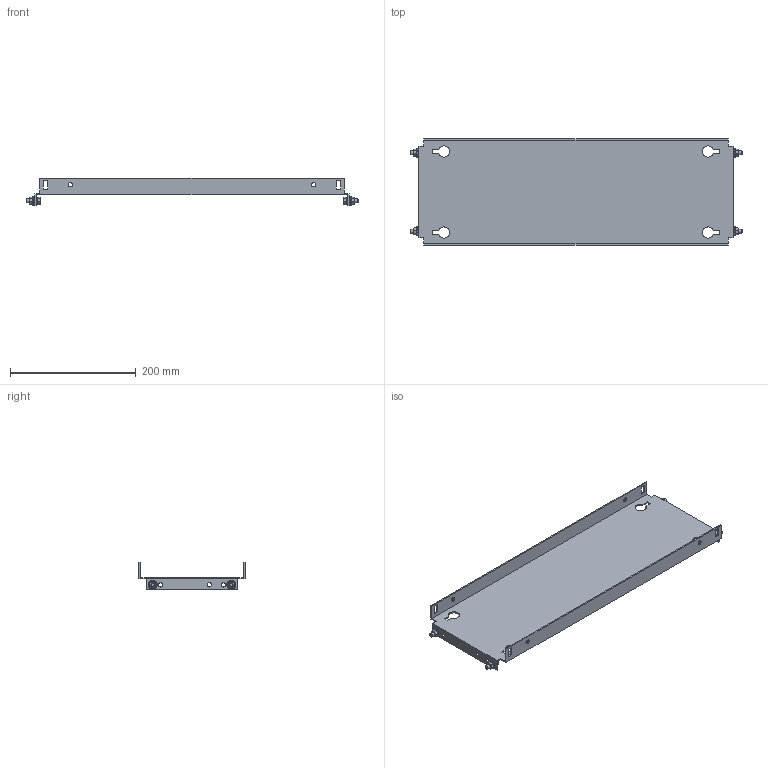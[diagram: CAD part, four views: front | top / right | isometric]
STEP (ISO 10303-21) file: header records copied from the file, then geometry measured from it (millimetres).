
FILE_DESCRIPTION(('Open CASCADE Model'),'2;1');
FILE_NAME('Open CASCADE Shape Model','2025-02-20T13:24:41',('Author'),( 'Open CASCADE'),'Open CASCADE STEP processor 7.8','Open CASCADE 7.8' ,'Unknown');
FILE_SCHEMA(('AUTOMOTIVE_DESIGN { 1 0 10303 214 1 1 1 1 }'));
Length unit declared in the file: millimetre
Products named in the file (4): Compound1; Solid1; Solid2; Solid3
Assembly tree (9 placements, depth 2):
  Compound1
    Solid1
    Solid2  x4
    Solid3  x4
Bounding box: 528 x 169 x 43 mm (x, y, z)
Volume: 226549.8 mm3; surface area: 230139.8 mm2
Topology: 9 solids, 9 shells, 308 faces, 753 edges, 467 vertices
Faces by surface type: plane 150, cone 68, bspline 48, cylinder 30, torus 12
Full cylindrical faces by diameter (mm): 5 x4, 6 x8, 7 x14
Entity records: 4930 total; most frequent: CARTESIAN_POINT 1377, ORIENTED_EDGE 756, DIRECTION 642, EDGE_CURVE 378, VERTEX_POINT 245, LINE 216, VECTOR 216, AXIS2_PLACEMENT_3D 213
